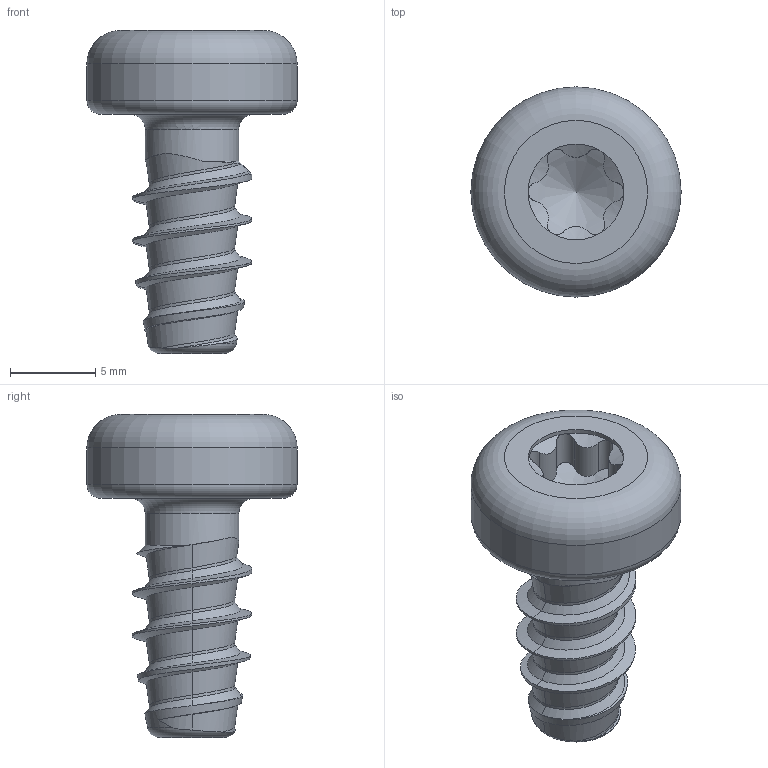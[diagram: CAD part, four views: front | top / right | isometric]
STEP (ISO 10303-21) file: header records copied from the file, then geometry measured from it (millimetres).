
FILE_DESCRIPTION(/* description */ (''),/* implementation_level */ '2;1');
FILE_NAME(/* name */ 'KN6039-STSplus-70x14-T30.step',/* time_stamp */ '2017-10-11T16:10:14+02:00',/* author */ (''),/* organization */ (''),/* preprocessor_version */ 'ST-DEVELOPER v16',/* originating_system */ 'SIEMENS PLM Software NX 10.0',/* authorisation */ '');
FILE_SCHEMA (('AUTOMOTIVE_DESIGN { 1 0 10303 214 3 1 1 1 }'));
Length unit declared in the file: millimetre
Products named in the file (1): KN6039-STSplus-70x14-T30
Bounding box: 12.3 x 12.3 x 18.9 mm (x, y, z)
Volume: 820.2 mm3; surface area: 726.3 mm2
Topology: 1 solids, 1 shells, 59 faces, 141 edges, 85 vertices
Faces by surface type: bspline 27, cylinder 16, cone 9, torus 4, plane 3
Full cylindrical faces by diameter (mm): 5.48 x1, 5.6 x1, 12.3 x1
Entity records: 3609 total; most frequent: CARTESIAN_POINT 2506, ORIENTED_EDGE 258, DIRECTION 136, EDGE_CURVE 129, VERTEX_POINT 82, B_SPLINE_CURVE_WITH_KNOTS 77, EDGE_LOOP 68, ADVANCED_FACE 59
